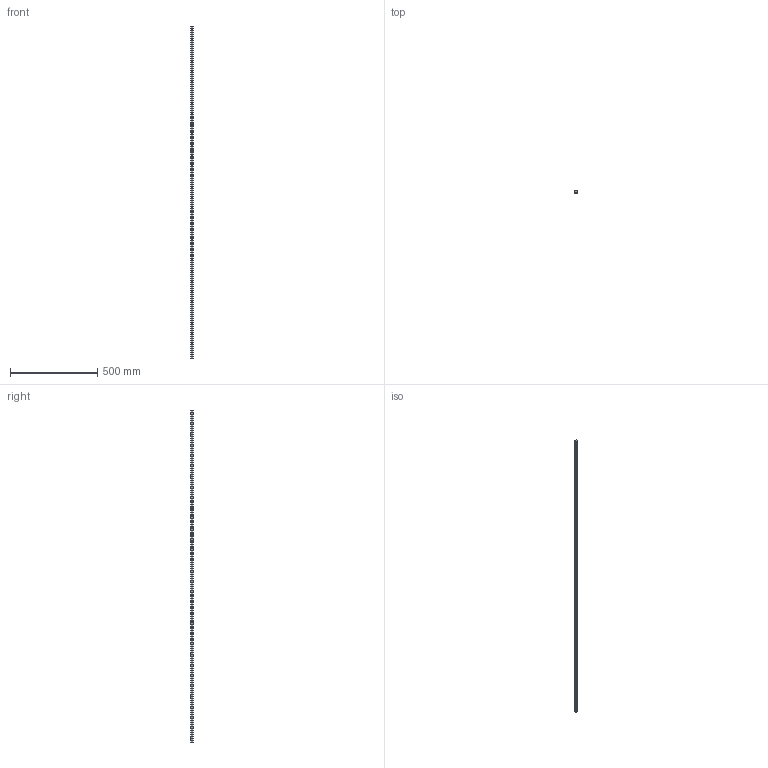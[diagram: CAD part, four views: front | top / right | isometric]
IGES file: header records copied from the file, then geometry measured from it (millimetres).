
Start section: SolidWorks IGES file using analytic representation for surfaces
Global section: file name: C:\Users\IanO\Desktop\L1016_v2\L1016.BL15_v2\L1016.BL15_v2_20190611_IGES\L1016.BL15-1900.igs; native system: SolidWorks 2017; preprocessor: SolidWorks 2017; author: IanO; date: 190612.123020; units: millimetre
Bounding box: 15 x 13 x 1900 mm (x, y, z)
Surface area: 116189.7 mm2 (no closed solid volume)
Topology: 0 solids, 0 shells, 186 faces, 4760 edges, 4760 vertices
Faces by surface type: revolution 132, bspline 54
